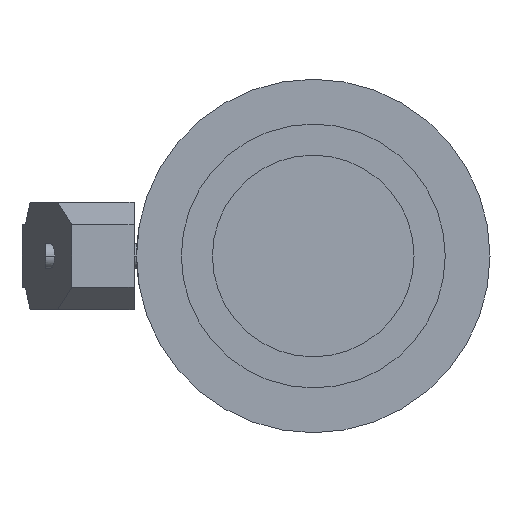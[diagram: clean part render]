
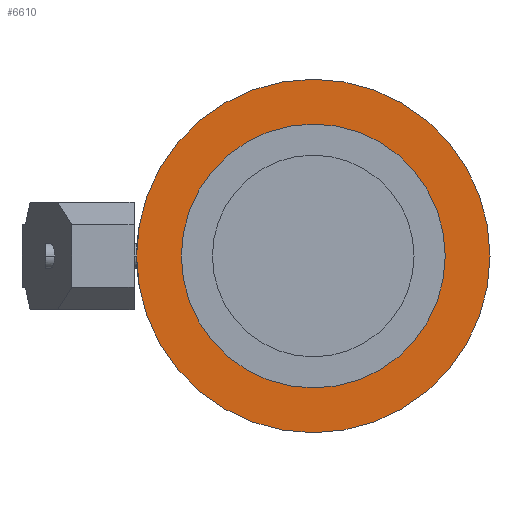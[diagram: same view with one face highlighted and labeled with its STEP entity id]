
A CAD part, left-side view. The second image highlights one B-rep face of the part: STEP entity #6610.
In plain terms, the highlighted planar face has unit normal (-1, 0, 0).
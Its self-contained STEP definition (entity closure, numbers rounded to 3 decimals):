
#1560=CARTESIAN_POINT('',(214.998,406.865,
0.));
#1570=VERTEX_POINT('',#1560);
#1600=CARTESIAN_POINT('',(214.998,477.865,0.));
#1610=DIRECTION('',(1.,0.,0.));
#1620=DIRECTION('',(0.,1.,0.));
#1630=AXIS2_PLACEMENT_3D('',#1600,#1610,#1620);
#1640=CIRCLE('',#1630,71.);
#1650=CARTESIAN_POINT('',(214.998,548.865,0.));
#1660=VERTEX_POINT('',#1650);
#1670=EDGE_CURVE('',#1660,#1570,#1640,.T.);
#6360=CARTESIAN_POINT('',(214.998,546.515,0.));
#6370=DIRECTION('',(-1.,0.,0.));
#6380=DIRECTION('',(0.,-1.,0.));
#6390=AXIS2_PLACEMENT_3D('',#6360,#6370,#6380);
#6400=PLANE('',#6390);
#6410=CARTESIAN_POINT('',(214.998,477.865,0.));
#6420=DIRECTION('',(1.,0.,0.));
#6430=DIRECTION('',(0.,1.,0.));
#6440=AXIS2_PLACEMENT_3D('',#6410,#6420,#6430);
#6450=CIRCLE('',#6440,52.5);
#6460=CARTESIAN_POINT('',(214.998,530.365,0.));
#6470=VERTEX_POINT('',#6460);
#6480=CARTESIAN_POINT('',(214.998,425.365,0.));
#6490=VERTEX_POINT('',#6480);
#6500=EDGE_CURVE('',#6470,#6490,#6450,.T.);
#6510=ORIENTED_EDGE('',*,*,#6500,.T.);
#6520=EDGE_CURVE('',#6490,#6470,#6450,.T.);
#6530=ORIENTED_EDGE('',*,*,#6520,.T.);
#6540=EDGE_LOOP('',(#6530,#6510));
#6550=FACE_BOUND('',#6540,.T.);
#6560=ORIENTED_EDGE('',*,*,#1670,.F.);
#6570=EDGE_CURVE('',#1570,#1660,#1640,.T.);
#6580=ORIENTED_EDGE('',*,*,#6570,.F.);
#6590=EDGE_LOOP('',(#6580,#6560));
#6600=FACE_OUTER_BOUND('',#6590,.T.);
#6610=ADVANCED_FACE('',(#6550,#6600),#6400,.T.);
